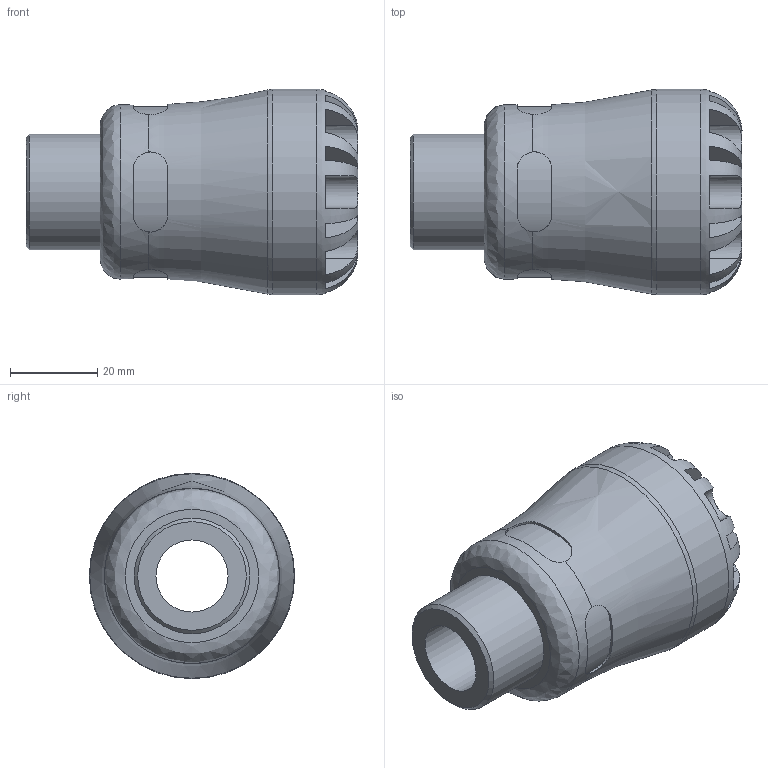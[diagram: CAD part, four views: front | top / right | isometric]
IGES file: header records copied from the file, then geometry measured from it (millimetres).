
Global section: file name: 1002C7022007.ipt; native system: Autodesk Inventor 2015; preprocessor: unknown; author: KIM; date: 20170515.110537; units: millimetre
Bounding box: 76 x 47 x 47 mm (x, y, z)
Volume: 66150.6 mm3; surface area: 17595.3 mm2
Topology: 1 solids, 1 shells, 99 faces, 264 edges, 169 vertices
Faces by surface type: plane 60, revolution 23, cylinder 15, cone 1
Full cylindrical faces by diameter (mm): 26.441 x1, 39.95 x1, 47 x1
